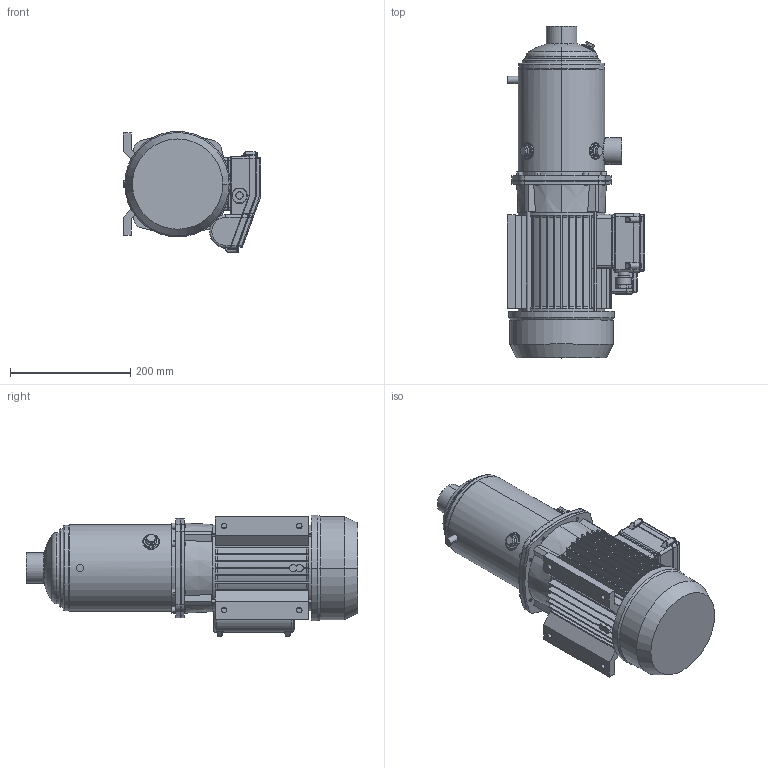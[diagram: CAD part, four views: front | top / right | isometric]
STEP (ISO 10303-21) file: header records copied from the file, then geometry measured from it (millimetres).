
FILE_DESCRIPTION((''),'2;1');
FILE_NAME('MATRIX_10-6T_2_2_M_ASM','2017-04-10T',('rosa'),('"Ebara Pumps Europe +39.444.706811"'),'PRO/ENGINEER BY PARAMETRIC TECHNOLOGY CORPORATION, 2012130','PRO/ENGINEER BY PARAMETRIC TECHNOLOGY CORPORATION, 2012130','');
FILE_SCHEMA(('AUTOMOTIVE_DESIGN { 1 0 10303 214 1 1 1 1 }'));
Length unit declared in the file: millimetre
Products named in the file (5): CORPO_POMPA_MATRIX_10-6; SUPPORTO_MATRIX_MEC_90; MEC_90X120_MONOFASE_ZAMP; COPRIMORSETTIERA_MEC80_90_M; MATRIX_10-6T_2_2_M_ASM
Assembly tree (4 placements, depth 2):
  MATRIX_10-6T_2_2_M_ASM
    CORPO_POMPA_MATRIX_10-6
    SUPPORTO_MATRIX_MEC_90
    MEC_90X120_MONOFASE_ZAMP
    COPRIMORSETTIERA_MEC80_90_M
Bounding box: 228 x 551.8 x 201.8 mm (x, y, z)
Volume: 7884350.1 mm3; surface area: 726657.1 mm2
Topology: 4 solids, 4 shells, 911 faces, 2164 edges, 1309 vertices
Faces by surface type: plane 402, cylinder 297, cone 104, bspline 56, torus 48, sphere 4
Entity records: 37167 total; most frequent: CARTESIAN_POINT 8998, DIRECTION 4442, ORIENTED_EDGE 4328, PRESENTATION_STYLE_ASSIGNMENT 2168, STYLED_ITEM 2168, CURVE_STYLE 2164, EDGE_CURVE 2164, AXIS2_PLACEMENT_3D 1712
